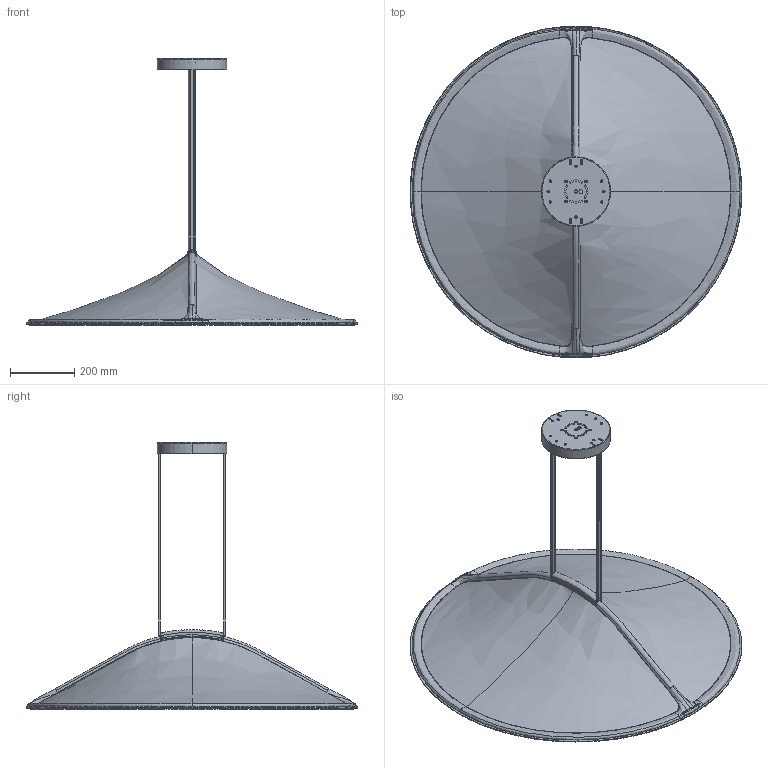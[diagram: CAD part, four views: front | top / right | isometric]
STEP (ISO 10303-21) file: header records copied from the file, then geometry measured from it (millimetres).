
FILE_DESCRIPTION (( 'STEP AP214' ), '1' );
FILE_NAME ('Pantaya, Pendant, Large.STEP', '2026-02-20T19:03:27', ( '' ), ( '' ), 'SwSTEP 2.0', 'SolidWorks 2019', '' );
FILE_SCHEMA (( 'AUTOMOTIVE_DESIGN' ));
Length unit declared in the file: millimetre
Products named in the file (1): Pantaya, Pendant, Large
Bounding box: 1032.2 x 1032.2 x 830.78 mm (x, y, z)
Surface area: 1425419.6 mm2 (no closed solid volume)
Topology: 0 solids, 13 shells, 526 faces, 1387 edges, 882 vertices
Faces by surface type: bspline 179, cylinder 142, plane 109, torus 52, cone 44
Entity records: 211822 total; most frequent: CARTESIAN_POINT 200306, ORIENTED_EDGE 2649, DIRECTION 1879, EDGE_CURVE 1352, VERTEX_POINT 870, AXIS2_PLACEMENT_3D 762, EDGE_LOOP 603, B_SPLINE_CURVE_WITH_KNOTS 553
